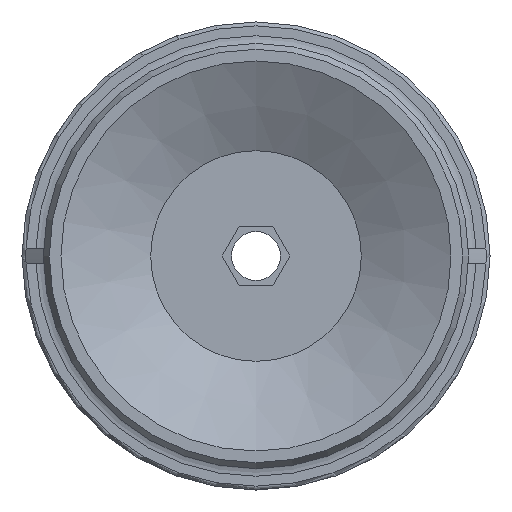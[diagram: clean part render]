
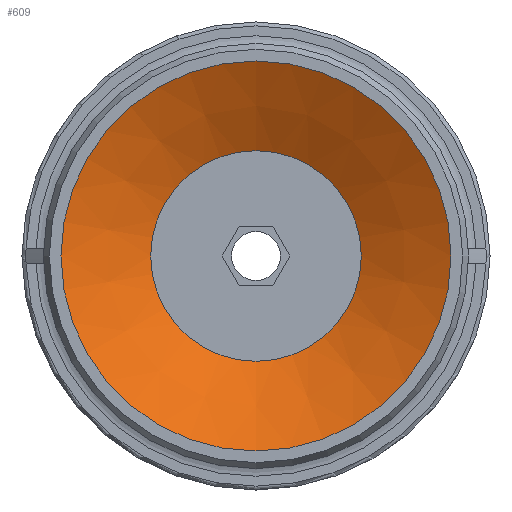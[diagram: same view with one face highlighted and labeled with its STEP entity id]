
A CAD part, front view. The second image highlights one B-rep face of the part: STEP entity #609.
In plain terms, the highlighted conical face has half-angle 61.631 degrees and reference radius 5.4 mm.
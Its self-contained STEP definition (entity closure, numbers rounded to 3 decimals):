
#609=ADVANCED_FACE('',(#913,#914),#915,.F.);
#913=FACE_BOUND('',#1322,.T.);
#914=FACE_OUTER_BOUND('',#1323,.T.);
#915=CONICAL_SURFACE('',#1324,5.4,1.076);
#1322=EDGE_LOOP('',(#2364));
#1323=EDGE_LOOP('',(#2365));
#1324=AXIS2_PLACEMENT_3D('',#2366,#2367,#2368);
#2364=ORIENTED_EDGE('',*,*,#2975,.F.);
#2365=ORIENTED_EDGE('',*,*,#2984,.T.);
#2366=CARTESIAN_POINT('',(0.0,2.484,0.0));
#2367=DIRECTION('',(-0.0,-1.0,0.));
#2368=DIRECTION('',(0.0,0.,-1.0));
#2975=EDGE_CURVE('',#3400,#3400,#3401,.T.);
#2984=EDGE_CURVE('',#3417,#3417,#3418,.T.);
#3400=VERTEX_POINT('',#4298);
#3401=CIRCLE('',#4299,5.4);
#3417=VERTEX_POINT('',#4317);
#3418=CIRCLE('',#4318,10.0);
#4298=CARTESIAN_POINT('',(0.0,2.484,-5.4));
#4299=AXIS2_PLACEMENT_3D('',#5106,#5107,#5108);
#4317=CARTESIAN_POINT('',(0.0,0.,-10.0));
#4318=AXIS2_PLACEMENT_3D('',#5129,#5130,#5131);
#5106=CARTESIAN_POINT('',(0.0,2.484,0.0));
#5107=DIRECTION('',(0.0,-1.0,0.));
#5108=DIRECTION('',(0.0,0.,-1.0));
#5129=CARTESIAN_POINT('',(0.0,0.0,0.0));
#5130=DIRECTION('',(0.0,-1.0,0.));
#5131=DIRECTION('',(0.0,0.,-1.0));
